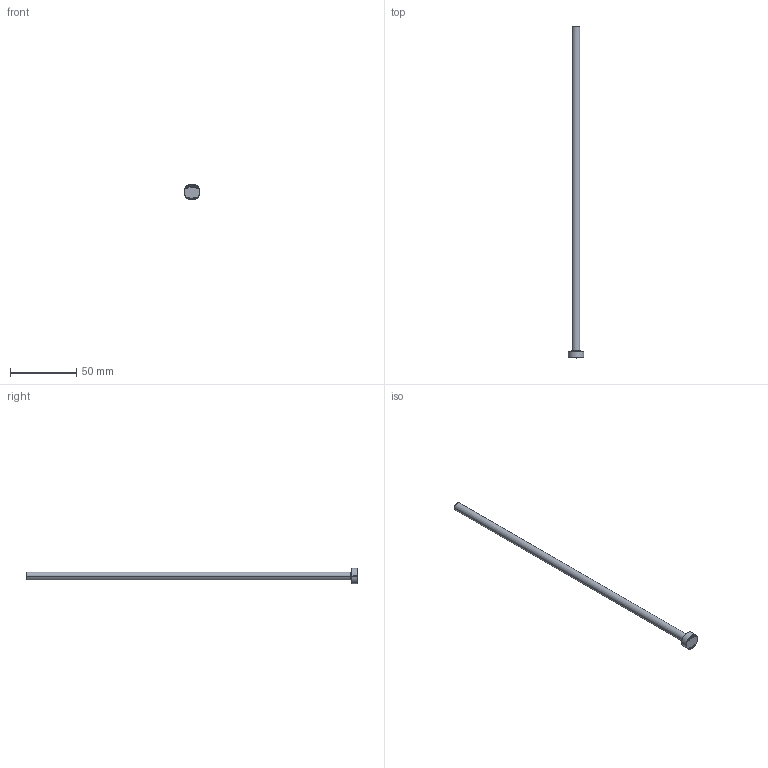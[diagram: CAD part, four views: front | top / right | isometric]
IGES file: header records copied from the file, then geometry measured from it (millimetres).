
Start section: SolidWorks IGES file using analytic representation for surfaces
Global section: file name: C:\Users\User\Downloads\Matripeça 31-08 tar\PB - PINO EXTRATOR TIPO _B_ (CATÁLOGO)\PB06,0\PB06,0250.IGS; native system: SolidWorks 2024; preprocessor: SolidWorks 2024; author: User; date: 260901.144050; units: millimetre
Bounding box: 12 x 250 x 12 mm (x, y, z)
Surface area: 5038.5 mm2 (no closed solid volume)
Topology: 0 solids, 0 shells, 405 faces, 3841 edges, 3841 vertices
Faces by surface type: bspline 391, revolution 14
